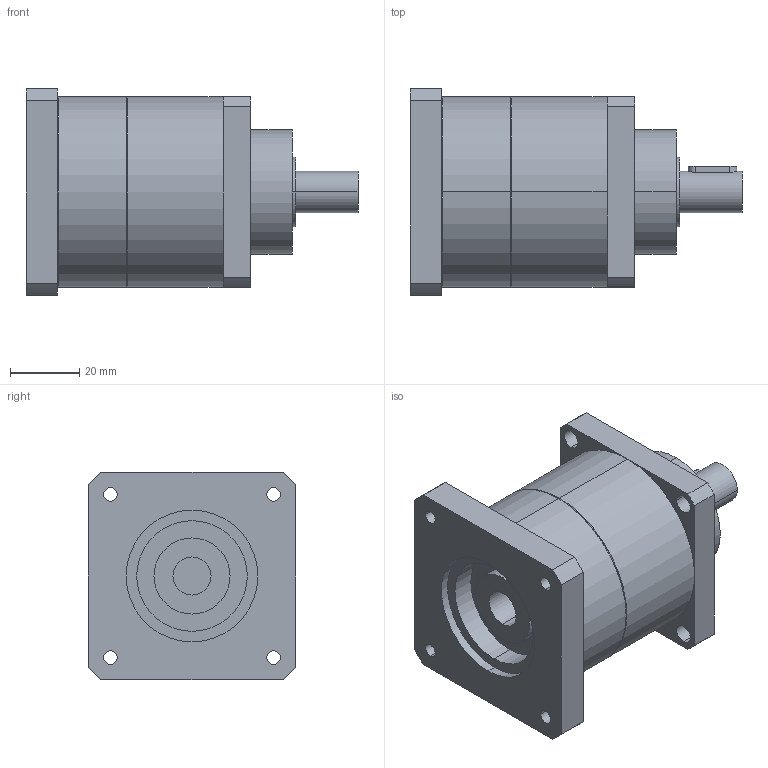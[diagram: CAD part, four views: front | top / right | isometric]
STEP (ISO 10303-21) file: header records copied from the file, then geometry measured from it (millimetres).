
FILE_DESCRIPTION(('CoCreate Modeling STEP Export'),'2;1');
FILE_NAME('GPT55_ig-3-4-5-7-10_12_B5A_11_P28.stp','2014-08-25T14:31:38',(''),(''),'CoCreate Modeling STEP processor for AP214 (Solid Model)','CoCreate Modeling 16.00C 25-Feb-2009 (C) Parametric Technology GmbH','');
FILE_SCHEMA(('AUTOMOTIVE_DESIGN { 1 0 10303 214 1 1 1 1 }'));
Length unit declared in the file: millimetre
Products named in the file (2): GPT55_ig-3-4-5-7-10_12_B5A_11_P28
Assembly tree (1 placements, depth 2):
  GPT55_ig-3-4-5-7-10_12_B5A_11_P28
    GPT55_ig-3-4-5-7-10_12_B5A_11_P28
Bounding box: 96 x 60 x 60 mm (x, y, z)
Volume: 174478.8 mm3; surface area: 25604.9 mm2
Topology: 1 solids, 1 shells, 77 faces, 204 edges, 139 vertices
Faces by surface type: cylinder 46, plane 27, cone 4
Entity records: 2515 total; most frequent: CARTESIAN_POINT 710, ORIENTED_EDGE 408, DIRECTION 318, EDGE_CURVE 204, VERTEX_POINT 139, AXIS2_PLACEMENT_3D 117, EDGE_LOOP 103, VECTOR 84
